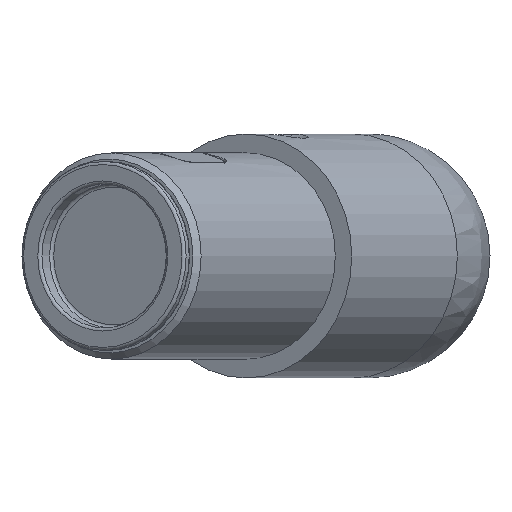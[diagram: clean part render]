
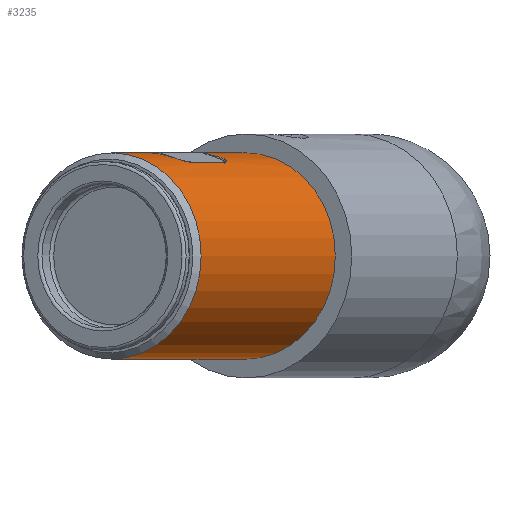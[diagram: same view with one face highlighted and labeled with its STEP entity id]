
A CAD part, left-side view. The second image highlights one B-rep face of the part: STEP entity #3235.
In plain terms, the highlighted cylindrical face has radius 16.9 mm (diameter 33.8 mm), a full revolution.
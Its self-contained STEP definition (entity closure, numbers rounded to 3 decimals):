
#178=FACE_BOUND('',#653,.T.);
#226=ELLIPSE('',#3485,17.496,16.9);
#263=CIRCLE('',#3481,16.9);
#265=CIRCLE('',#3484,16.9);
#266=CIRCLE('',#3486,16.9);
#397=CYLINDRICAL_SURFACE('',#3483,16.9);
#447=FACE_OUTER_BOUND('',#652,.T.);
#652=EDGE_LOOP('',(#2292,#2293,#2294,#2295));
#653=EDGE_LOOP('',(#2296,#2297,#2298,#2299,#2300,#2301,#2302,#2303));
#878=LINE('',#6072,#1143);
#879=LINE('',#6088,#1144);
#880=LINE('',#6114,#1145);
#1143=VECTOR('',#3888,16.9);
#1144=VECTOR('',#3891,1000.);
#1145=VECTOR('',#3894,1000.);
#1410=B_SPLINE_CURVE_WITH_KNOTS('',3,(#6077,#6078,#6079,#6080,#6081,#6082,
#6083,#6084,#6085,#6086),.UNSPECIFIED.,.F.,.F.,(4,2,2,2,4),(-0.952,
-0.87,-0.787,-0.706,-0.625),
 .UNSPECIFIED.);
#1411=B_SPLINE_CURVE_WITH_KNOTS('',3,(#6090,#6091,#6092,#6093,#6094,#6095,
#6096,#6097,#6098,#6099),.UNSPECIFIED.,.F.,.F.,(4,2,2,2,4),(-1.236,
-1.16,-1.085,-1.004,-0.924),
 .UNSPECIFIED.);
#1412=B_SPLINE_CURVE_WITH_KNOTS('',3,(#6103,#6104,#6105,#6106,#6107,#6108,
#6109,#6110,#6111,#6112),.UNSPECIFIED.,.F.,.F.,(4,2,2,2,4),(-0.929,
-0.849,-0.769,-0.693,-0.618),
 .UNSPECIFIED.);
#1413=B_SPLINE_CURVE_WITH_KNOTS('',3,(#6115,#6116,#6117,#6118,#6119,#6120,
#6121,#6122,#6123,#6124),.UNSPECIFIED.,.F.,.F.,(4,2,2,2,4),(-1.258,
-1.177,-1.096,-1.014,-0.931),
 .UNSPECIFIED.);
#1467=VERTEX_POINT('',#6064);
#1469=VERTEX_POINT('',#6070);
#1470=VERTEX_POINT('',#6073);
#1471=VERTEX_POINT('',#6074);
#1472=VERTEX_POINT('',#6076);
#1473=VERTEX_POINT('',#6087);
#1474=VERTEX_POINT('',#6089);
#1475=VERTEX_POINT('',#6100);
#1476=VERTEX_POINT('',#6102);
#1477=VERTEX_POINT('',#6113);
#1791=EDGE_CURVE('',#1467,#1467,#263,.T.);
#1794=EDGE_CURVE('',#1469,#1469,#265,.T.);
#1795=EDGE_CURVE('',#1469,#1467,#878,.T.);
#1796=EDGE_CURVE('',#1470,#1471,#226,.T.);
#1797=EDGE_CURVE('',#1470,#1472,#1410,.T.);
#1798=EDGE_CURVE('',#1473,#1472,#879,.T.);
#1799=EDGE_CURVE('',#1473,#1474,#1411,.T.);
#1800=EDGE_CURVE('',#1475,#1474,#266,.T.);
#1801=EDGE_CURVE('',#1475,#1476,#1412,.T.);
#1802=EDGE_CURVE('',#1477,#1476,#880,.T.);
#1803=EDGE_CURVE('',#1477,#1471,#1413,.T.);
#2292=ORIENTED_EDGE('',*,*,#1794,.T.);
#2293=ORIENTED_EDGE('',*,*,#1795,.T.);
#2294=ORIENTED_EDGE('',*,*,#1791,.T.);
#2295=ORIENTED_EDGE('',*,*,#1795,.F.);
#2296=ORIENTED_EDGE('',*,*,#1796,.F.);
#2297=ORIENTED_EDGE('',*,*,#1797,.T.);
#2298=ORIENTED_EDGE('',*,*,#1798,.F.);
#2299=ORIENTED_EDGE('',*,*,#1799,.T.);
#2300=ORIENTED_EDGE('',*,*,#1800,.F.);
#2301=ORIENTED_EDGE('',*,*,#1801,.T.);
#2302=ORIENTED_EDGE('',*,*,#1802,.F.);
#2303=ORIENTED_EDGE('',*,*,#1803,.T.);
#3235=ADVANCED_FACE('',(#447,#178),#397,.T.);
#3481=AXIS2_PLACEMENT_3D('',#6065,#3879,#3880);
#3483=AXIS2_PLACEMENT_3D('',#6069,#3884,#3885);
#3484=AXIS2_PLACEMENT_3D('',#6071,#3886,#3887);
#3485=AXIS2_PLACEMENT_3D('',#6075,#3889,#3890);
#3486=AXIS2_PLACEMENT_3D('',#6101,#3892,#3893);
#3879=DIRECTION('center_axis',(0.866,-0.5,0.));
#3880=DIRECTION('ref_axis',(-0.5,-0.866,0.));
#3884=DIRECTION('center_axis',(0.866,-0.5,0.));
#3885=DIRECTION('ref_axis',(0.5,0.866,0.));
#3886=DIRECTION('center_axis',(-0.866,0.5,0.));
#3887=DIRECTION('ref_axis',(0.5,0.866,0.));
#3888=DIRECTION('',(-0.866,0.5,0.));
#3889=DIRECTION('center_axis',(-0.837,0.483,0.259));
#3890=DIRECTION('ref_axis',(0.224,-0.129,0.966));
#3891=DIRECTION('',(0.866,-0.5,0.));
#3892=DIRECTION('center_axis',(0.866,-0.5,0.));
#3893=DIRECTION('ref_axis',(0.5,0.866,0.));
#3894=DIRECTION('',(-0.866,0.5,0.));
#6064=CARTESIAN_POINT('',(-108.989,7.122,15.066));
#6065=CARTESIAN_POINT('Origin',(-100.539,21.758,15.066));
#6069=CARTESIAN_POINT('Origin',(-101.405,22.258,15.066));
#6070=CARTESIAN_POINT('',(-70.884,-14.878,15.066));
#6071=CARTESIAN_POINT('Origin',(-62.434,-0.242,15.066));
#6072=CARTESIAN_POINT('',(-109.855,7.622,15.066));
#6073=CARTESIAN_POINT('',(-79.55,3.867,31.209));
#6074=CARTESIAN_POINT('',(-74.55,12.527,31.209));
#6075=CARTESIAN_POINT('Origin',(-80.796,10.36,15.066));
#6076=CARTESIAN_POINT('',(-82.52,3.272,30.448));
#6077=CARTESIAN_POINT('Ctrl Pts',(-79.55,3.867,31.209));
#6078=CARTESIAN_POINT('Ctrl Pts',(-79.699,3.652,31.128));
#6079=CARTESIAN_POINT('Ctrl Pts',(-79.903,3.458,31.037));
#6080=CARTESIAN_POINT('Ctrl Pts',(-80.375,3.164,30.859));
#6081=CARTESIAN_POINT('Ctrl Pts',(-80.641,3.065,30.772));
#6082=CARTESIAN_POINT('Ctrl Pts',(-81.158,2.963,30.63));
#6083=CARTESIAN_POINT('Ctrl Pts',(-81.446,2.953,30.564));
#6084=CARTESIAN_POINT('Ctrl Pts',(-82.009,3.04,30.473));
#6085=CARTESIAN_POINT('Ctrl Pts',(-82.285,3.137,30.448));
#6086=CARTESIAN_POINT('Ctrl Pts',(-82.52,3.272,30.448));
#6087=CARTESIAN_POINT('',(-92.348,8.946,30.448));
#6088=CARTESIAN_POINT('',(-104.905,16.196,30.448));
#6089=CARTESIAN_POINT('',(-93.08,11.678,31.209));
#6090=CARTESIAN_POINT('Ctrl Pts',(-92.348,8.946,30.448));
#6091=CARTESIAN_POINT('Ctrl Pts',(-92.565,9.072,30.448));
#6092=CARTESIAN_POINT('Ctrl Pts',(-92.771,9.248,30.471));
#6093=CARTESIAN_POINT('Ctrl Pts',(-93.091,9.664,30.559));
#6094=CARTESIAN_POINT('Ctrl Pts',(-93.207,9.903,30.624));
#6095=CARTESIAN_POINT('Ctrl Pts',(-93.342,10.384,30.768));
#6096=CARTESIAN_POINT('Ctrl Pts',(-93.366,10.659,30.857));
#6097=CARTESIAN_POINT('Ctrl Pts',(-93.298,11.196,31.038));
#6098=CARTESIAN_POINT('Ctrl Pts',(-93.208,11.456,31.13));
#6099=CARTESIAN_POINT('Ctrl Pts',(-93.08,11.678,31.209));
#6100=CARTESIAN_POINT('',(-88.08,20.338,31.209));
#6101=CARTESIAN_POINT('Origin',(-90.58,16.008,15.066));
#6102=CARTESIAN_POINT('',(-85.348,21.07,30.448));
#6103=CARTESIAN_POINT('Ctrl Pts',(-88.08,20.338,31.209));
#6104=CARTESIAN_POINT('Ctrl Pts',(-87.952,20.56,31.13));
#6105=CARTESIAN_POINT('Ctrl Pts',(-87.771,20.769,31.038));
#6106=CARTESIAN_POINT('Ctrl Pts',(-87.34,21.096,30.857));
#6107=CARTESIAN_POINT('Ctrl Pts',(-87.09,21.213,30.768));
#6108=CARTESIAN_POINT('Ctrl Pts',(-86.606,21.336,30.624));
#6109=CARTESIAN_POINT('Ctrl Pts',(-86.341,21.356,30.559));
#6110=CARTESIAN_POINT('Ctrl Pts',(-85.821,21.286,30.471));
#6111=CARTESIAN_POINT('Ctrl Pts',(-85.565,21.196,30.448));
#6112=CARTESIAN_POINT('Ctrl Pts',(-85.348,21.07,30.448));
#6113=CARTESIAN_POINT('',(-75.52,15.397,30.448));
#6114=CARTESIAN_POINT('',(-97.905,28.32,30.448));
#6115=CARTESIAN_POINT('Ctrl Pts',(-75.52,15.397,30.448));
#6116=CARTESIAN_POINT('Ctrl Pts',(-75.285,15.261,30.448));
#6117=CARTESIAN_POINT('Ctrl Pts',(-75.063,15.07,30.473));
#6118=CARTESIAN_POINT('Ctrl Pts',(-74.707,14.626,30.564));
#6119=CARTESIAN_POINT('Ctrl Pts',(-74.571,14.371,30.63));
#6120=CARTESIAN_POINT('Ctrl Pts',(-74.401,13.873,30.772));
#6121=CARTESIAN_POINT('Ctrl Pts',(-74.354,13.592,30.859));
#6122=CARTESIAN_POINT('Ctrl Pts',(-74.373,13.038,31.037));
#6123=CARTESIAN_POINT('Ctrl Pts',(-74.439,12.764,31.128));
#6124=CARTESIAN_POINT('Ctrl Pts',(-74.55,12.527,31.209));
